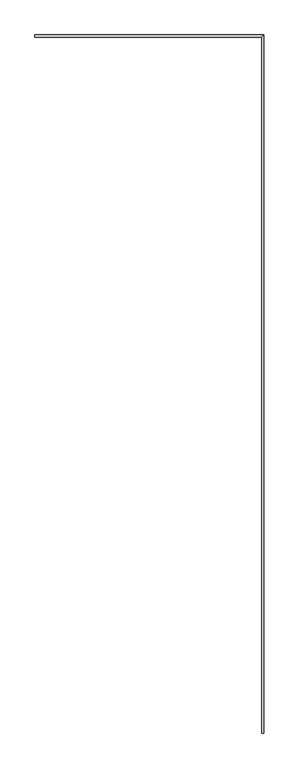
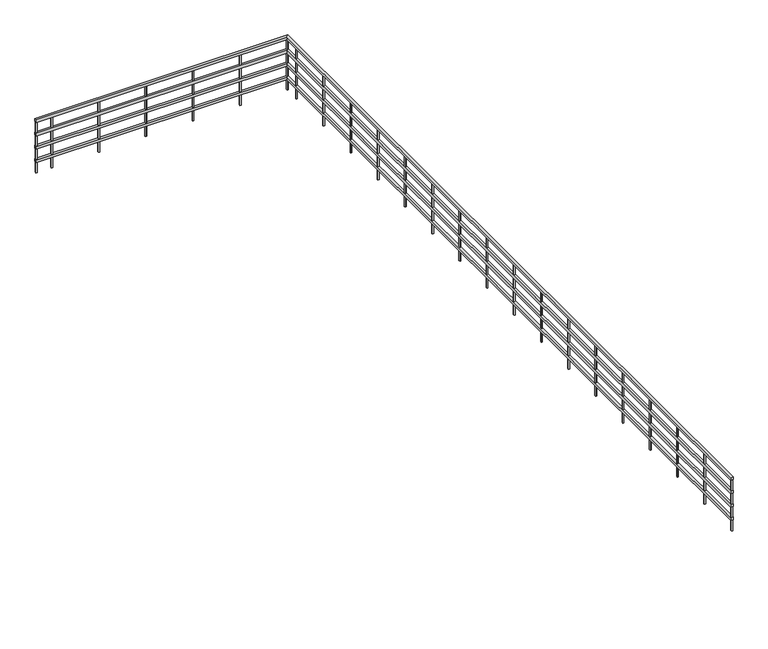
"""IFC4 building model written with IfcOpenShell, lengths in millimetres: railing geometry, RL780-금속재 난간."""

from ifc_helpers import new_model, si_unit, frame, origin, place, context, project, spatial, polyline, outline, extrude, faceted_brep, source, transform, mapped, element, save


def railing_6d27c915(model_context):
    return source(origin(), model_context, "Body", "SolidModel", [
        faceted_brep([(20565.0, -200.0, 1250.0), (20565.0, -200.0, 1190.0), (20615.0, -200.0, 1190.0), (20615.0, -200.0, 1250.0), (20615.0, 16165.0, 1190.0), (20615.0, 16165.0, 1250.0), (20565.0, 16115.0, 1250.0), (15250.0, 16115.0, 1250.0), (15250.0, 16165.0, 1250.0), (15250.0, 16165.0, 1190.0), (15250.0, 16115.0, 1190.0), (20565.0, 16115.0, 1190.0)], [[[0, 1, 2, 3]], [[3, 2, 4, 5]], [[0, 3, 5, 6]], [[7, 8, 9, 10]], [[5, 4, 9, 8]], [[6, 5, 8, 7]], [[1, 0, 6, 11]], [[2, 1, 11, 4]], [[11, 6, 7, 10]], [[4, 11, 10, 9]]]),
        faceted_brep([(20565.0, -200.0, 950.0), (20565.0, -200.0, 890.0), (20615.0, -200.0, 890.0), (20615.0, -200.0, 950.0), (20615.0, 16165.0, 890.0), (20615.0, 16165.0, 950.0), (20565.0, 16115.0, 950.0), (15250.0, 16115.0, 950.0), (15250.0, 16165.0, 950.0), (15250.0, 16165.0, 890.0), (15250.0, 16115.0, 890.0), (20565.0, 16115.0, 890.0)], [[[0, 1, 2, 3]], [[3, 2, 4, 5]], [[0, 3, 5, 6]], [[7, 8, 9, 10]], [[5, 4, 9, 8]], [[6, 5, 8, 7]], [[1, 0, 6, 11]], [[2, 1, 11, 4]], [[11, 6, 7, 10]], [[4, 11, 10, 9]]]),
        faceted_brep([(20565.0, -200.0, 650.0), (20565.0, -200.0, 590.0), (20615.0, -200.0, 590.0), (20615.0, -200.0, 650.0), (20615.0, 16165.0, 590.0), (20615.0, 16165.0, 650.0), (20565.0, 16115.0, 650.0), (15250.0, 16115.0, 650.0), (15250.0, 16165.0, 650.0), (15250.0, 16165.0, 590.0), (15250.0, 16115.0, 590.0), (20565.0, 16115.0, 590.0)], [[[0, 1, 2, 3]], [[3, 2, 4, 5]], [[0, 3, 5, 6]], [[7, 8, 9, 10]], [[5, 4, 9, 8]], [[6, 5, 8, 7]], [[1, 0, 6, 11]], [[2, 1, 11, 4]], [[11, 6, 7, 10]], [[4, 11, 10, 9]]]),
        faceted_brep([(20565.0, -200.0, 350.0), (20565.0, -200.0, 290.0), (20615.0, -200.0, 290.0), (20615.0, -200.0, 350.0), (20615.0, 16165.0, 290.0), (20615.0, 16165.0, 350.0), (20565.0, 16115.0, 350.0), (15250.0, 16115.0, 350.0), (15250.0, 16165.0, 350.0), (15250.0, 16165.0, 290.0), (15250.0, 16115.0, 290.0), (20565.0, 16115.0, 290.0)], [[[0, 1, 2, 3]], [[3, 2, 4, 5]], [[0, 3, 5, 6]], [[7, 8, 9, 10]], [[5, 4, 9, 8]], [[6, 5, 8, 7]], [[1, 0, 6, 11]], [[2, 1, 11, 4]], [[11, 6, 7, 10]], [[4, 11, 10, 9]]]),
        extrude(outline(polyline([(15602.5, 16152.5), (15602.5, 16127.5), (15577.5, 16127.5), (15577.5, 16152.5), (15602.5, 16152.5)])), frame((0.0, 0.0, 50.0), z_axis=(0.0, 0.0, 1.0), x_axis=(1.0, 0.0, 0.0)), (0.0, 0.0, 1.0), 1140.0),
        extrude(outline(polyline([(16602.5, 16152.5), (16602.5, 16127.5), (16577.5, 16127.5), (16577.5, 16152.5), (16602.5, 16152.5)])), frame((0.0, 0.0, 50.0), z_axis=(0.0, 0.0, 1.0), x_axis=(1.0, 0.0, 0.0)), (0.0, 0.0, 1.0), 1140.0),
        extrude(outline(polyline([(17602.5, 16152.5), (17602.5, 16127.5), (17577.5, 16127.5), (17577.5, 16152.5), (17602.5, 16152.5)])), frame((0.0, 0.0, 50.0), z_axis=(0.0, 0.0, 1.0), x_axis=(1.0, 0.0, 0.0)), (0.0, 0.0, 1.0), 1140.0),
        extrude(outline(polyline([(18602.5, 16152.5), (18602.5, 16127.5), (18577.5, 16127.5), (18577.5, 16152.5), (18602.5, 16152.5)])), frame((0.0, 0.0, 50.0), z_axis=(0.0, 0.0, 1.0), x_axis=(1.0, 0.0, 0.0)), (0.0, 0.0, 1.0), 1140.0),
        extrude(outline(polyline([(19602.5, 16152.5), (19602.5, 16127.5), (19577.5, 16127.5), (19577.5, 16152.5), (19602.5, 16152.5)])), frame((0.0, 0.0, 50.0), z_axis=(0.0, 0.0, 1.0), x_axis=(1.0, 0.0, 0.0)), (0.0, 0.0, 1.0), 1140.0),
        extrude(outline(polyline([(20602.5, 15787.5), (20577.5, 15787.5), (20577.5, 15812.5), (20602.5, 15812.5), (20602.5, 15787.5)])), frame((0.0, 0.0, 50.0), z_axis=(0.0, 0.0, 1.0), x_axis=(1.0, 0.0, 0.0)), (0.0, 0.0, 1.0), 1140.0),
        extrude(outline(polyline([(20602.5, 14787.5), (20577.5, 14787.5), (20577.5, 14812.5), (20602.5, 14812.5), (20602.5, 14787.5)])), frame((0.0, 0.0, 50.0), z_axis=(0.0, 0.0, 1.0), x_axis=(1.0, 0.0, 0.0)), (0.0, 0.0, 1.0), 1140.0),
        extrude(outline(polyline([(20602.5, 13787.5), (20577.5, 13787.5), (20577.5, 13812.5), (20602.5, 13812.5), (20602.5, 13787.5)])), frame((0.0, 0.0, 50.0), z_axis=(0.0, 0.0, 1.0), x_axis=(1.0, 0.0, 0.0)), (0.0, 0.0, 1.0), 1140.0),
        extrude(outline(polyline([(20602.5, 12787.5), (20577.5, 12787.5), (20577.5, 12812.5), (20602.5, 12812.5), (20602.5, 12787.5)])), frame((0.0, 0.0, 50.0), z_axis=(0.0, 0.0, 1.0), x_axis=(1.0, 0.0, 0.0)), (0.0, 0.0, 1.0), 1140.0),
        extrude(outline(polyline([(20602.5, 11787.5), (20577.5, 11787.5), (20577.5, 11812.5), (20602.5, 11812.5), (20602.5, 11787.5)])), frame((0.0, 0.0, 50.0), z_axis=(0.0, 0.0, 1.0), x_axis=(1.0, 0.0, 0.0)), (0.0, 0.0, 1.0), 1140.0),
        extrude(outline(polyline([(20602.5, 10787.5), (20577.5, 10787.5), (20577.5, 10812.5), (20602.5, 10812.5), (20602.5, 10787.5)])), frame((0.0, 0.0, 50.0), z_axis=(0.0, 0.0, 1.0), x_axis=(1.0, 0.0, 0.0)), (0.0, 0.0, 1.0), 1140.0),
        extrude(outline(polyline([(20602.5, 9787.5), (20577.5, 9787.5), (20577.5, 9812.5), (20602.5, 9812.5), (20602.5, 9787.5)])), frame((0.0, 0.0, 50.0), z_axis=(0.0, 0.0, 1.0), x_axis=(1.0, 0.0, 0.0)), (0.0, 0.0, 1.0), 1140.0),
        extrude(outline(polyline([(20602.5, 8787.5), (20577.5, 8787.5), (20577.5, 8812.5), (20602.5, 8812.5), (20602.5, 8787.5)])), frame((0.0, 0.0, 50.0), z_axis=(0.0, 0.0, 1.0), x_axis=(1.0, 0.0, 0.0)), (0.0, 0.0, 1.0), 1140.0),
        extrude(outline(polyline([(20602.5, 7787.5), (20577.5, 7787.5), (20577.5, 7812.5), (20602.5, 7812.5), (20602.5, 7787.5)])), frame((0.0, 0.0, 50.0), z_axis=(0.0, 0.0, 1.0), x_axis=(1.0, 0.0, 0.0)), (0.0, 0.0, 1.0), 1140.0),
        extrude(outline(polyline([(20602.5, 6787.5), (20577.5, 6787.5), (20577.5, 6812.5), (20602.5, 6812.5), (20602.5, 6787.5)])), frame((0.0, 0.0, 50.0), z_axis=(0.0, 0.0, 1.0), x_axis=(1.0, 0.0, 0.0)), (0.0, 0.0, 1.0), 1140.0),
        extrude(outline(polyline([(20602.5, 5787.5), (20577.5, 5787.5), (20577.5, 5812.5), (20602.5, 5812.5), (20602.5, 5787.5)])), frame((0.0, 0.0, 50.0), z_axis=(0.0, 0.0, 1.0), x_axis=(1.0, 0.0, 0.0)), (0.0, 0.0, 1.0), 1140.0),
        extrude(outline(polyline([(20602.5, 4787.5), (20577.5, 4787.5), (20577.5, 4812.5), (20602.5, 4812.5), (20602.5, 4787.5)])), frame((0.0, 0.0, 50.0), z_axis=(0.0, 0.0, 1.0), x_axis=(1.0, 0.0, 0.0)), (0.0, 0.0, 1.0), 1140.0),
        extrude(outline(polyline([(20602.5, 3787.5), (20577.5, 3787.5), (20577.5, 3812.5), (20602.5, 3812.5), (20602.5, 3787.5)])), frame((0.0, 0.0, 50.0), z_axis=(0.0, 0.0, 1.0), x_axis=(1.0, 0.0, 0.0)), (0.0, 0.0, 1.0), 1140.0),
        extrude(outline(polyline([(20602.5, 2787.5), (20577.5, 2787.5), (20577.5, 2812.5), (20602.5, 2812.5), (20602.5, 2787.5)])), frame((0.0, 0.0, 50.0), z_axis=(0.0, 0.0, 1.0), x_axis=(1.0, 0.0, 0.0)), (0.0, 0.0, 1.0), 1140.0),
        extrude(outline(polyline([(20602.5, 1787.5), (20577.5, 1787.5), (20577.5, 1812.5), (20602.5, 1812.5), (20602.5, 1787.5)])), frame((0.0, 0.0, 50.0), z_axis=(0.0, 0.0, 1.0), x_axis=(1.0, 0.0, 0.0)), (0.0, 0.0, 1.0), 1140.0),
        extrude(outline(polyline([(20602.5, 787.5), (20577.5, 787.5), (20577.5, 812.5), (20602.5, 812.5), (20602.5, 787.5)])), frame((0.0, 0.0, 50.0), z_axis=(0.0, 0.0, 1.0), x_axis=(1.0, 0.0, 0.0)), (0.0, 0.0, 1.0), 1140.0),
        extrude(outline(polyline([(20602.5, 16127.5), (20577.5, 16127.5), (20577.5, 16152.5), (20602.5, 16152.5), (20602.5, 16127.5)])), frame((0.0, 0.0, 50.0), z_axis=(0.0, 0.0, 1.0), x_axis=(1.0, 0.0, 0.0)), (0.0, 0.0, 1.0), 1140.0),
        extrude(outline(polyline([(15275.0, 16152.5), (15275.0, 16127.5), (15250.0, 16127.5), (15250.0, 16152.5), (15275.0, 16152.5)])), frame((0.0, 0.0, 50.0), z_axis=(0.0, 0.0, 1.0), x_axis=(1.0, 0.0, 0.0)), (0.0, 0.0, 1.0), 1140.0),
        extrude(outline(polyline([(20602.5, -200.0), (20577.5, -200.0), (20577.5, -175.0), (20602.5, -175.0), (20602.5, -200.0)])), frame((0.0, 0.0, 50.0), z_axis=(0.0, 0.0, 1.0), x_axis=(1.0, 0.0, 0.0)), (0.0, 0.0, 1.0), 1140.0),
    ])


if __name__ == "__main__":
    model = new_model("IFC4")
    model_context = context("Model", 3, world=origin())
    ifc_project = project(units=[si_unit("LENGTHUNIT", "METRE", prefix="MILLI")], contexts=[model_context])
    site = spatial("IfcSite", under=ifc_project)
    building = spatial("IfcBuilding", under=site)
    placement = place(None, origin())
    railing_shape = railing_6d27c915(model_context)
    element("IfcRailing", 1, ObjectType="RL780-금속재 난간", at=placement, inside=building, context=model_context, shape_type="MappedRepresentation", body=[
        mapped(railing_shape, transform((0.0, 0.0, 0.0), x_axis=(1.0, 0.0, 0.0), y_axis=(0.0, 1.0, 0.0), z_axis=(0.0, 0.0, 1.0))),
    ])
    save(model, "model.ifc")
